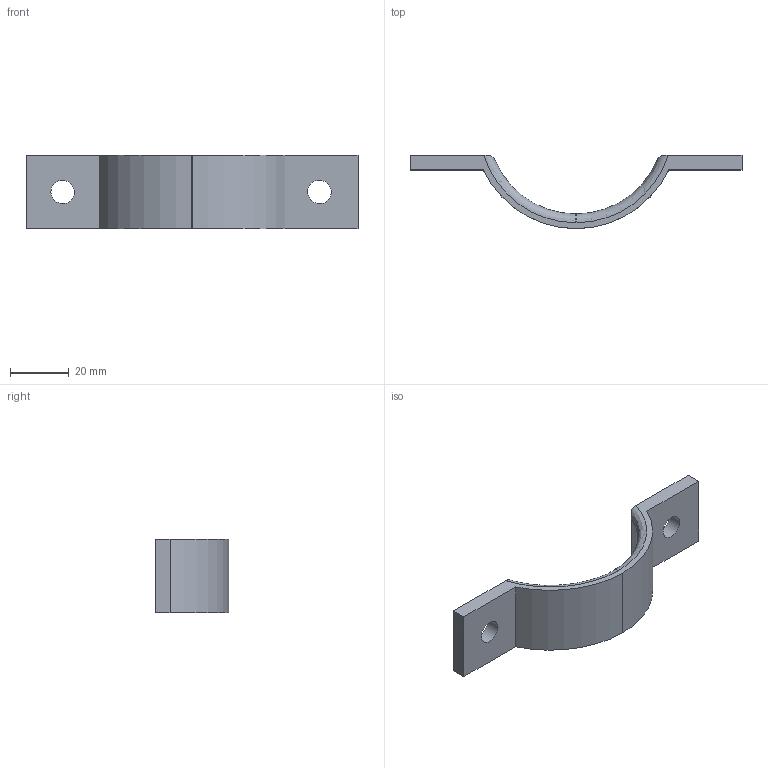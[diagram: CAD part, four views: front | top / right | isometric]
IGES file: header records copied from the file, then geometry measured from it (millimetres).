
Start section: START RECORD GO HERE.
Global section: file name: Clamp.igs; native system: DASSAULT SYSTEMES CATIA V5 R20 - www.3ds.com; preprocessor: CATIA Version 5 Release 20 ; author: user; organization: SHWETANK; date: 20170113.185309; units: millimetre
Bounding box: 113.25 x 25 x 25 mm (x, y, z)
Surface area: 7867 mm2 (no closed solid volume)
Topology: 0 solids, 0 shells, 24 faces, 128 edges, 128 vertices
Faces by surface type: revolution 14, plane 10
